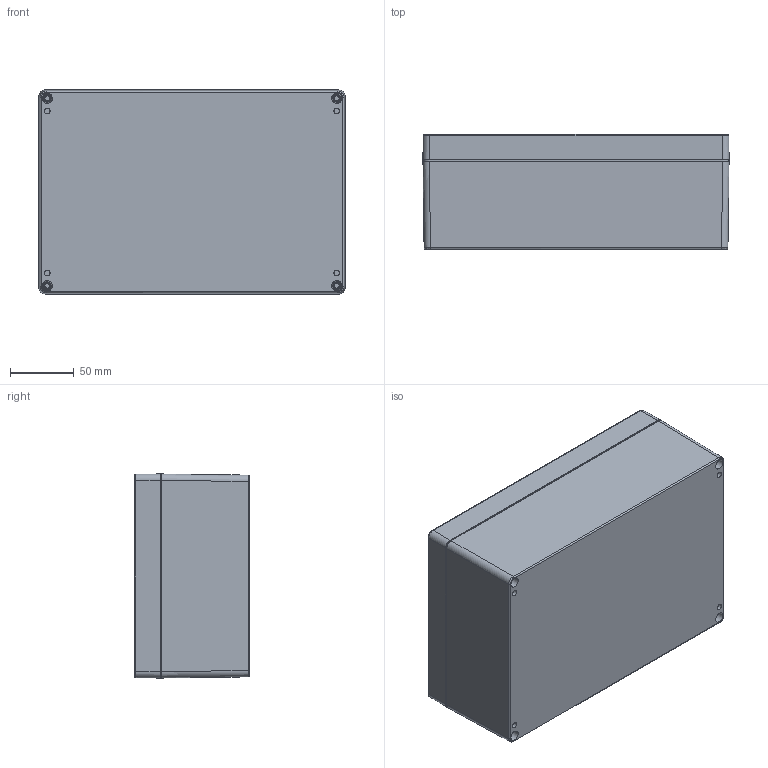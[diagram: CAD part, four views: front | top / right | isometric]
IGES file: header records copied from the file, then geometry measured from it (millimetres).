
Global section: file name: 1554V; native system: Autodesk Inventor 2016; preprocessor: unknown; author: avernon; date: 20160811.142855; units: millimetre
Bounding box: 240 x 90 x 160 mm (x, y, z)
Volume: 506349.8 mm3; surface area: 324613.3 mm2
Topology: 15 solids, 15 shells, 1354 faces, 3604 edges, 2378 vertices
Faces by surface type: bspline 1354
